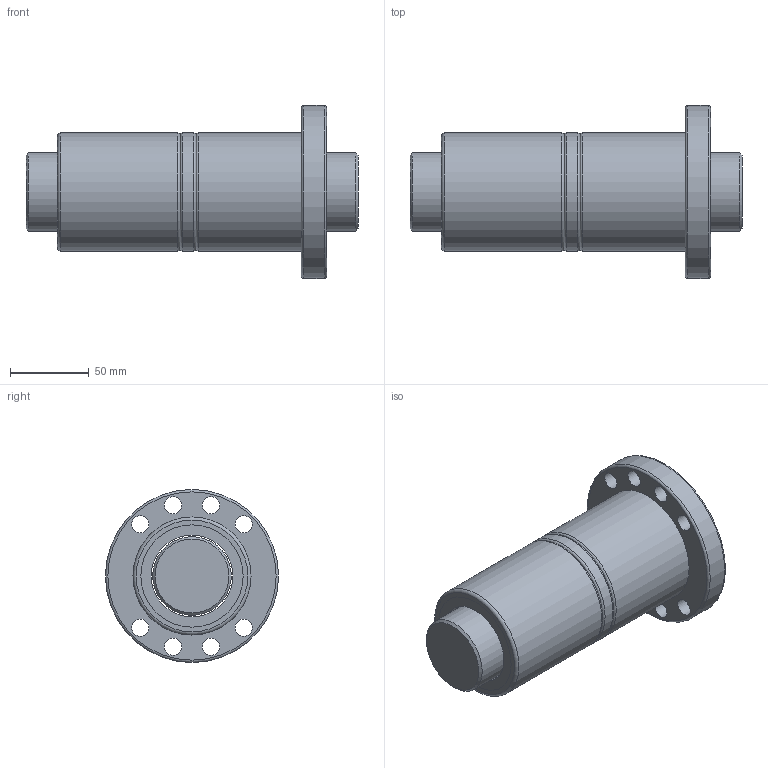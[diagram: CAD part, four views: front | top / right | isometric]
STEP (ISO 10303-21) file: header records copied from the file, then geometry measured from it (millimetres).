
FILE_DESCRIPTION(/* description */ (''),/* implementation_level */ '2;1');
FILE_NAME(/* name */ 'DFU5010',/* time_stamp */ '2007-10-26T10:59:59+08:00',/* author */ (''),/* organization */ (''),/* preprocessor_version */ 'ST-DEVELOPER v9',/* originating_system */ 'EDS PLM SOLUTIONS - UNIGRAPHICS NX 1.0',/* authorisation */ '');
FILE_SCHEMA (('CONFIG_CONTROL_DESIGN'));
Length unit declared in the file: millimetre
Products named in the file (1): FANNDA0400d4
Bounding box: 211 x 110 x 110 mm (x, y, z)
Volume: 874470.9 mm3; surface area: 143663.9 mm2
Topology: 6 solids, 6 shells, 46 faces, 91 edges, 60 vertices
Faces by surface type: cylinder 22, plane 15, torus 7, cone 2
Full cylindrical faces by diameter (mm): 11 x8, 50 x1, 52 x5, 65 x4, 75 x3, 110 x1
Entity records: 1122 total; most frequent: DIRECTION 200, CARTESIAN_POINT 153, EDGE_LOOP 106, ORIENTED_EDGE 106, AXIS2_PLACEMENT_3D 100, FACE_BOUND 89, VERTEX_POINT 53, EDGE_CURVE 53
